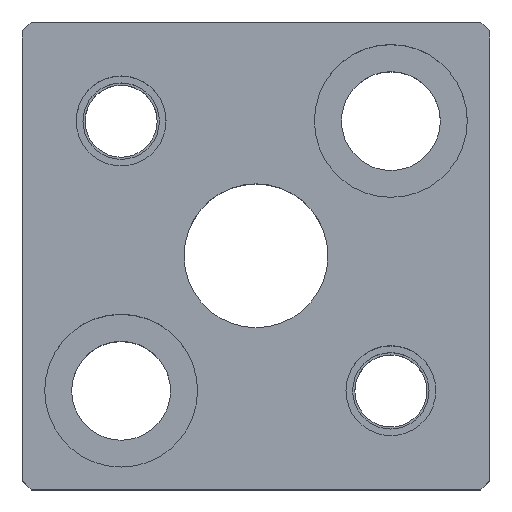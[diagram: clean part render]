
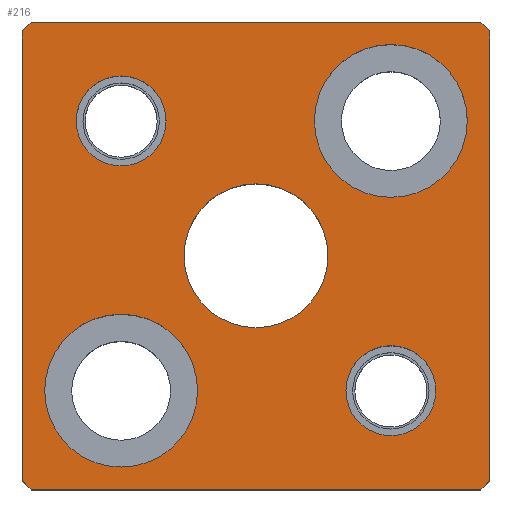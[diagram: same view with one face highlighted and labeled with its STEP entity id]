
A CAD part, top view. The second image highlights one B-rep face of the part: STEP entity #216.
In plain terms, the highlighted planar face has unit normal (0, 0, 1).
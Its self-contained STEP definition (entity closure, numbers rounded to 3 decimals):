
#100=FACE_BOUND('',#324,.T.);
#101=FACE_BOUND('',#325,.T.);
#102=FACE_BOUND('',#326,.T.);
#103=FACE_BOUND('',#327,.T.);
#104=FACE_BOUND('',#328,.T.);
#105=FACE_BOUND('',#329,.T.);
#147=CIRCLE('',#937,5.);
#149=CIRCLE('',#940,5.);
#151=CIRCLE('',#943,5.);
#153=CIRCLE('',#946,5.);
#163=CIRCLE('',#961,8.5);
#164=CIRCLE('',#962,8.5);
#165=CIRCLE('',#963,8.5);
#166=CIRCLE('',#964,8.5);
#167=CIRCLE('',#965,8.);
#168=CIRCLE('',#966,8.);
#216=ADVANCED_FACE('',(#100,#101,#102,#103,#104,#105),#255,.T.);
#255=PLANE('',#967);
#324=EDGE_LOOP('',(#459,#460,#461,#462,#463,#464,#465,#466));
#325=EDGE_LOOP('',(#467,#468));
#326=EDGE_LOOP('',(#469,#470));
#327=EDGE_LOOP('',(#471,#472));
#328=EDGE_LOOP('',(#473,#474));
#329=EDGE_LOOP('',(#475,#476));
#459=ORIENTED_EDGE('',*,*,#692,.T.);
#460=ORIENTED_EDGE('',*,*,#689,.T.);
#461=ORIENTED_EDGE('',*,*,#707,.T.);
#462=ORIENTED_EDGE('',*,*,#704,.T.);
#463=ORIENTED_EDGE('',*,*,#701,.T.);
#464=ORIENTED_EDGE('',*,*,#685,.T.);
#465=ORIENTED_EDGE('',*,*,#682,.T.);
#466=ORIENTED_EDGE('',*,*,#678,.T.);
#467=ORIENTED_EDGE('',*,*,#736,.F.);
#468=ORIENTED_EDGE('',*,*,#737,.F.);
#469=ORIENTED_EDGE('',*,*,#738,.F.);
#470=ORIENTED_EDGE('',*,*,#739,.F.);
#471=ORIENTED_EDGE('',*,*,#722,.F.);
#472=ORIENTED_EDGE('',*,*,#718,.F.);
#473=ORIENTED_EDGE('',*,*,#716,.F.);
#474=ORIENTED_EDGE('',*,*,#712,.F.);
#475=ORIENTED_EDGE('',*,*,#740,.T.);
#476=ORIENTED_EDGE('',*,*,#741,.T.);
#601=VERTEX_POINT('',#1286);
#602=VERTEX_POINT('',#1288);
#605=VERTEX_POINT('',#1296);
#607=VERTEX_POINT('',#1302);
#610=VERTEX_POINT('',#1309);
#611=VERTEX_POINT('',#1311);
#618=VERTEX_POINT('',#1334);
#620=VERTEX_POINT('',#1340);
#623=VERTEX_POINT('',#1355);
#624=VERTEX_POINT('',#1356);
#627=VERTEX_POINT('',#1367);
#628=VERTEX_POINT('',#1368);
#639=VERTEX_POINT('',#1403);
#640=VERTEX_POINT('',#1404);
#641=VERTEX_POINT('',#1407);
#642=VERTEX_POINT('',#1408);
#643=VERTEX_POINT('',#1411);
#644=VERTEX_POINT('',#1412);
#678=EDGE_CURVE('',#602,#601,#794,.T.);
#682=EDGE_CURVE('',#605,#602,#798,.T.);
#685=EDGE_CURVE('',#607,#605,#801,.T.);
#689=EDGE_CURVE('',#611,#610,#805,.T.);
#692=EDGE_CURVE('',#601,#611,#808,.T.);
#701=EDGE_CURVE('',#618,#607,#817,.T.);
#704=EDGE_CURVE('',#620,#618,#820,.T.);
#707=EDGE_CURVE('',#610,#620,#823,.T.);
#712=EDGE_CURVE('',#623,#624,#147,.T.);
#716=EDGE_CURVE('',#624,#623,#149,.T.);
#718=EDGE_CURVE('',#627,#628,#151,.T.);
#722=EDGE_CURVE('',#628,#627,#153,.T.);
#736=EDGE_CURVE('',#639,#640,#163,.T.);
#737=EDGE_CURVE('',#640,#639,#164,.T.);
#738=EDGE_CURVE('',#641,#642,#165,.T.);
#739=EDGE_CURVE('',#642,#641,#166,.T.);
#740=EDGE_CURVE('',#643,#644,#167,.T.);
#741=EDGE_CURVE('',#644,#643,#168,.T.);
#794=LINE('',#1287,#860);
#798=LINE('',#1295,#864);
#801=LINE('',#1301,#867);
#805=LINE('',#1310,#871);
#808=LINE('',#1316,#874);
#817=LINE('',#1333,#883);
#820=LINE('',#1339,#886);
#823=LINE('',#1345,#889);
#860=VECTOR('',#1025,1.);
#864=VECTOR('',#1031,1.);
#867=VECTOR('',#1036,1.);
#871=VECTOR('',#1042,1.);
#874=VECTOR('',#1047,1.);
#883=VECTOR('',#1062,1.);
#886=VECTOR('',#1067,1.);
#889=VECTOR('',#1072,1.);
#937=AXIS2_PLACEMENT_3D('',#1354,#1083,#1084);
#940=AXIS2_PLACEMENT_3D('',#1363,#1091,#1092);
#943=AXIS2_PLACEMENT_3D('',#1366,#1097,#1098);
#946=AXIS2_PLACEMENT_3D('',#1375,#1105,#1106);
#961=AXIS2_PLACEMENT_3D('',#1402,#1139,#1140);
#962=AXIS2_PLACEMENT_3D('',#1405,#1141,#1142);
#963=AXIS2_PLACEMENT_3D('',#1406,#1143,#1144);
#964=AXIS2_PLACEMENT_3D('',#1409,#1145,#1146);
#965=AXIS2_PLACEMENT_3D('',#1410,#1147,#1148);
#966=AXIS2_PLACEMENT_3D('',#1413,#1149,#1150);
#967=AXIS2_PLACEMENT_3D('',#1414,#1151,#1152);
#1025=DIRECTION('',(1.,0.,0.));
#1031=DIRECTION('',(0.707,-0.707,0.));
#1036=DIRECTION('',(0.,-1.,0.));
#1042=DIRECTION('',(0.,1.,0.));
#1047=DIRECTION('',(0.707,0.707,0.));
#1062=DIRECTION('',(-0.707,-0.707,0.));
#1067=DIRECTION('',(-1.,0.,0.));
#1072=DIRECTION('',(-0.707,0.707,0.));
#1083=DIRECTION('',(0.,0.,1.));
#1084=DIRECTION('',(-1.,0.,0.));
#1091=DIRECTION('',(0.,0.,1.));
#1092=DIRECTION('',(1.,0.,0.));
#1097=DIRECTION('',(0.,0.,1.));
#1098=DIRECTION('',(-1.,0.,0.));
#1105=DIRECTION('',(0.,0.,1.));
#1106=DIRECTION('',(1.,0.,0.));
#1139=DIRECTION('',(0.,0.,1.));
#1140=DIRECTION('',(1.,0.,0.));
#1141=DIRECTION('',(0.,0.,1.));
#1142=DIRECTION('',(-1.,0.,0.));
#1143=DIRECTION('',(0.,0.,1.));
#1144=DIRECTION('',(1.,0.,0.));
#1145=DIRECTION('',(0.,0.,1.));
#1146=DIRECTION('',(-1.,0.,0.));
#1147=DIRECTION('',(0.,0.,-1.));
#1148=DIRECTION('',(-1.,0.,0.));
#1149=DIRECTION('',(0.,0.,-1.));
#1150=DIRECTION('',(1.,0.,0.));
#1151=DIRECTION('',(0.,0.,1.));
#1152=DIRECTION('',(-1.,0.,0.));
#1286=CARTESIAN_POINT('',(25.,-26.,30.));
#1287=CARTESIAN_POINT('',(-25.,-26.,30.));
#1288=CARTESIAN_POINT('',(-25.,-26.,30.));
#1295=CARTESIAN_POINT('',(-25.,-26.,30.));
#1296=CARTESIAN_POINT('',(-26.,-25.,30.));
#1301=CARTESIAN_POINT('',(-26.,25.,30.));
#1302=CARTESIAN_POINT('',(-26.,25.,30.));
#1309=CARTESIAN_POINT('',(26.,25.,30.));
#1310=CARTESIAN_POINT('',(26.,25.,30.));
#1311=CARTESIAN_POINT('',(26.,-25.,30.));
#1316=CARTESIAN_POINT('',(26.,-25.,30.));
#1333=CARTESIAN_POINT('',(-26.,25.,30.));
#1334=CARTESIAN_POINT('',(-25.,26.,30.));
#1339=CARTESIAN_POINT('',(-25.,26.,30.));
#1340=CARTESIAN_POINT('',(25.,26.,30.));
#1345=CARTESIAN_POINT('',(25.,26.,30.));
#1354=CARTESIAN_POINT('',(15.,-15.,30.));
#1355=CARTESIAN_POINT('',(15.,-20.,30.));
#1356=CARTESIAN_POINT('',(15.,-10.,30.));
#1363=CARTESIAN_POINT('',(15.,-15.,30.));
#1366=CARTESIAN_POINT('',(-15.,15.,30.));
#1367=CARTESIAN_POINT('',(-15.,10.,30.));
#1368=CARTESIAN_POINT('',(-15.,20.,30.));
#1375=CARTESIAN_POINT('',(-15.,15.,30.));
#1402=CARTESIAN_POINT('',(15.,15.,30.));
#1403=CARTESIAN_POINT('',(15.,23.5,30.));
#1404=CARTESIAN_POINT('',(15.,6.5,30.));
#1405=CARTESIAN_POINT('',(15.,15.,30.));
#1406=CARTESIAN_POINT('',(-15.,-15.,30.));
#1407=CARTESIAN_POINT('',(-15.,-6.5,30.));
#1408=CARTESIAN_POINT('',(-15.,-23.5,30.));
#1409=CARTESIAN_POINT('',(-15.,-15.,30.));
#1410=CARTESIAN_POINT('',(0.,0.,30.));
#1411=CARTESIAN_POINT('',(0.,8.,30.));
#1412=CARTESIAN_POINT('',(0.,-8.,30.));
#1413=CARTESIAN_POINT('',(0.,0.,30.));
#1414=CARTESIAN_POINT('',(25.,-26.,30.));
